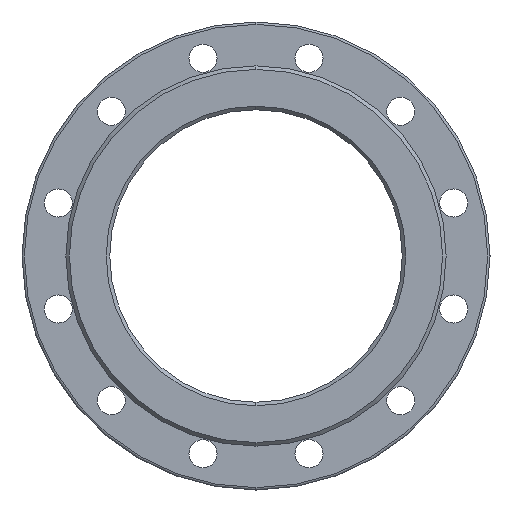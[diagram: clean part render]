
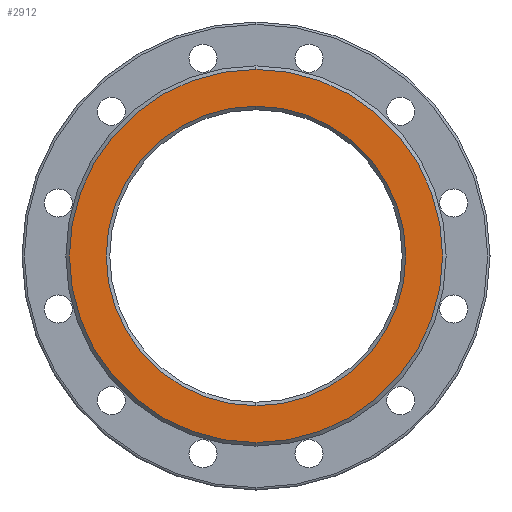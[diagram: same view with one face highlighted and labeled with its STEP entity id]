
A CAD part, left-side view. The second image highlights one B-rep face of the part: STEP entity #2912.
In plain terms, the highlighted planar face has unit normal (-1, 0, 0).
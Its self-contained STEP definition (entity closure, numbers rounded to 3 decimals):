
#127 = CIRCLE ( 'NONE', #1150, 159.5 ) ;
#207 = DIRECTION ( 'NONE',  ( 1., 0., 0. ) ) ;
#284 = DIRECTION ( 'NONE',  ( -1., 0., 0. ) ) ;
#481 = VERTEX_POINT ( 'NONE', #2728 ) ;
#518 = VERTEX_POINT ( 'NONE', #3124 ) ;
#611 = DIRECTION ( 'NONE',  ( 0., 0., -1. ) ) ;
#720 = DIRECTION ( 'NONE',  ( 1., 0., 0. ) ) ;
#1023 = EDGE_CURVE ( 'Defeatured_0_3+Defeatured_0_24+Defeatured_0_24+Defeatured_0_24', #518, #481, #3208, .T. ) ;
#1043 = CARTESIAN_POINT ( 'NONE',  ( -250., 0., 0. ) ) ;
#1057 = EDGE_LOOP ( 'NONE', ( #3867, #1277 ) ) ;
#1150 = AXIS2_PLACEMENT_3D ( 'NONE', #1043, #1367, #2874 ) ;
#1186 = EDGE_CURVE ( 'Defeatured_0_3+Defeatured_0_4+Defeatured_0_4+Defeatured_0_4', #1755, #3326, #127, .T. ) ;
#1277 = ORIENTED_EDGE ( 'NONE', *, *, #1186, .T. ) ;
#1367 = DIRECTION ( 'NONE',  ( -1., 0., 0. ) ) ;
#1386 = CARTESIAN_POINT ( 'NONE',  ( -250., 0., 0. ) ) ;
#1563 = AXIS2_PLACEMENT_3D ( 'NONE', #4528, #720, #1921 ) ;
#1748 = CARTESIAN_POINT ( 'NONE',  ( -250., 0., 0. ) ) ;
#1755 = VERTEX_POINT ( 'NONE', #3595 ) ;
#1921 = DIRECTION ( 'NONE',  ( 0., 0., -1. ) ) ;
#1942 = FACE_OUTER_BOUND ( 'NONE', #1057, .T. ) ;
#2055 = CIRCLE ( 'NONE', #4018, 159.5 ) ;
#2484 = CARTESIAN_POINT ( 'NONE',  ( -250., 0., -159.5 ) ) ;
#2561 = DIRECTION ( 'NONE',  ( 1., 0., 0. ) ) ;
#2728 = CARTESIAN_POINT ( 'NONE',  ( -250., 0., 128. ) ) ;
#2842 = EDGE_CURVE ( 'Defeatured_0_3+Defeatured_0_4+Defeatured_0_4+Defeatured_0_4', #3326, #1755, #2055, .T. ) ;
#2874 = DIRECTION ( 'NONE',  ( 0., 0., 1. ) ) ;
#2912 = ADVANCED_FACE ( 'Defeatured_0_3', ( #4582, #1942 ), #3790, .F. ) ;
#2920 = AXIS2_PLACEMENT_3D ( 'NONE', #1386, #2561, #611 ) ;
#3124 = CARTESIAN_POINT ( 'NONE',  ( -250., 0., -128. ) ) ;
#3178 = CARTESIAN_POINT ( 'NONE',  ( -250., 0., 0. ) ) ;
#3208 = CIRCLE ( 'NONE', #3999, 128. ) ;
#3252 = DIRECTION ( 'NONE',  ( 0., 0., 1. ) ) ;
#3326 = VERTEX_POINT ( 'NONE', #2484 ) ;
#3595 = CARTESIAN_POINT ( 'NONE',  ( -250., 0., 159.5 ) ) ;
#3782 = CIRCLE ( 'NONE', #2920, 128. ) ;
#3790 = PLANE ( 'NONE',  #1563 ) ;
#3867 = ORIENTED_EDGE ( 'NONE', *, *, #2842, .T. ) ;
#3999 = AXIS2_PLACEMENT_3D ( 'NONE', #3178, #207, #4657 ) ;
#4018 = AXIS2_PLACEMENT_3D ( 'NONE', #1748, #284, #3252 ) ;
#4026 = ORIENTED_EDGE ( 'NONE', *, *, #1023, .T. ) ;
#4047 = ORIENTED_EDGE ( 'NONE', *, *, #4870, .T. ) ;
#4202 = EDGE_LOOP ( 'NONE', ( #4047, #4026 ) ) ;
#4528 = CARTESIAN_POINT ( 'NONE',  ( -250., 125., 0. ) ) ;
#4582 = FACE_BOUND ( 'NONE', #4202, .T. ) ;
#4657 = DIRECTION ( 'NONE',  ( 0., 0., -1. ) ) ;
#4870 = EDGE_CURVE ( 'Defeatured_0_3+Defeatured_0_24+Defeatured_0_24+Defeatured_0_24', #481, #518, #3782, .T. ) ;
